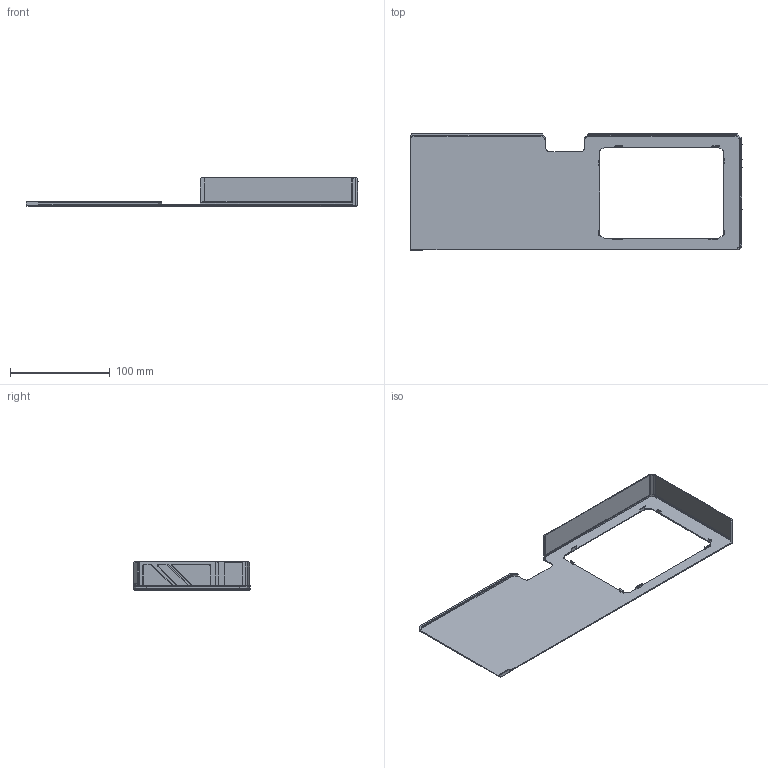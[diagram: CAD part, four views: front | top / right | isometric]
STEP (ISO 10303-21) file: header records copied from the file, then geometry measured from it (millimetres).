
FILE_DESCRIPTION((''),'2;1');
FILE_NAME('HC039-BACKPLATE','2025-01-06T17:52:52',('Kate'),(''),'CREO PARAMETRIC BY PTC INC, 2021304','CREO PARAMETRIC BY PTC INC, 2021304','');
FILE_SCHEMA(('AUTOMOTIVE_DESIGN { 1 0 10303 214 1 1 1 1 }'));
Length unit declared in the file: millimetre
Products named in the file (1): HC039-BACKPLATE
Bounding box: 332.69 x 116.8 x 28.4 mm (x, y, z)
Volume: 60971.4 mm3; surface area: 73017.4 mm2
Topology: 1 solids, 1 shells, 738 faces, 1956 edges, 1259 vertices
Faces by surface type: plane 450, cylinder 200, cone 70, extrusion 8, torus 6, bspline 4
Entity records: 31874 total; most frequent: CARTESIAN_POINT 5535, ORIENTED_EDGE 3890, DIRECTION 3770, PRESENTATION_STYLE_ASSIGNMENT 2055, STYLED_ITEM 1946, CURVE_STYLE 1945, EDGE_CURVE 1945, VECTOR 1408
